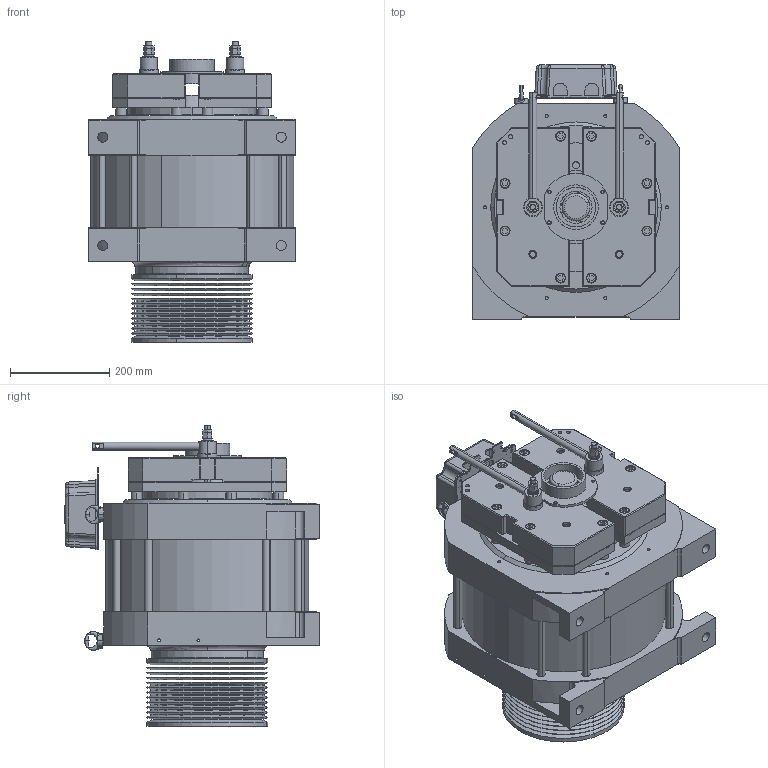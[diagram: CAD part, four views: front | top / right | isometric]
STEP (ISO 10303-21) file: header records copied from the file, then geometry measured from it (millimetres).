
FILE_DESCRIPTION (( 'STEP AP214' ), '1' );
FILE_NAME ('CSAG K320 (240)1600KG.STEP', '2024-05-14T06:22:24', ( '' ), ( '' ), 'SwSTEP 2.0', 'SolidWorks 2021', '' );
FILE_SCHEMA (( 'AUTOMOTIVE_DESIGN' ));
Length unit declared in the file: millimetre
Products named in the file (1): CSAG K320 (240)1600KG
Bounding box: 416 x 514 x 606.9 mm (x, y, z)
Surface area: 1838424 mm2 (no closed solid volume)
Topology: 0 solids, 83 shells, 931 faces, 2957 edges, 2069 vertices
Faces by surface type: plane 451, cylinder 381, cone 52, bspline 28, torus 19
Entity records: 54355 total; most frequent: CARTESIAN_POINT 17677, DIRECTION 5704, ORIENTED_EDGE 4899, EDGE_CURVE 2949, VERTEX_POINT 2069, AXIS2_PLACEMENT_3D 2044, LINE 1616, VECTOR 1616
